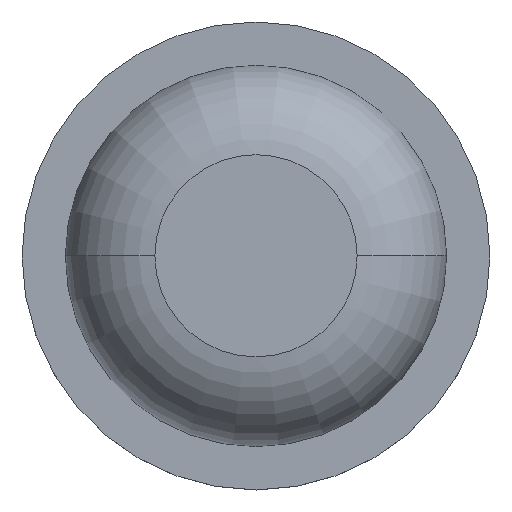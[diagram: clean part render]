
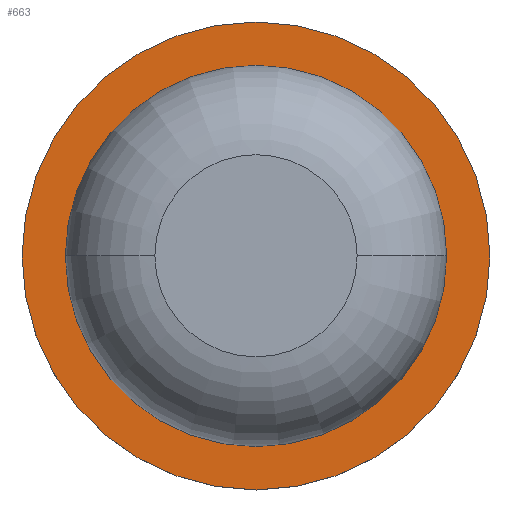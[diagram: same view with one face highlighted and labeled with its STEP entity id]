
A CAD part, top view. The second image highlights one B-rep face of the part: STEP entity #663.
In plain terms, the highlighted planar face has unit normal (0, 0, 1).
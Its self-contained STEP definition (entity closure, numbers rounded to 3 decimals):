
#8 = CIRCLE ( 'NONE', #188, 8.1 ) ;
#18 = AXIS2_PLACEMENT_3D ( 'NONE', #165, #662, #275 ) ;
#20 = AXIS2_PLACEMENT_3D ( 'NONE', #454, #449, #279 ) ;
#24 = VERTEX_POINT ( 'NONE', #646 ) ;
#43 = CIRCLE ( 'NONE', #18, 8.1 ) ;
#52 = AXIS2_PLACEMENT_3D ( 'NONE', #470, #637, #76 ) ;
#72 = CARTESIAN_POINT ( 'NONE',  ( 6.6, 0., 1.6 ) ) ;
#74 = EDGE_CURVE ( 'NONE', #533, #238, #254, .T. ) ;
#76 = DIRECTION ( 'NONE',  ( -1., 0., 0. ) ) ;
#165 = CARTESIAN_POINT ( 'NONE',  ( 0., 0., 1.6 ) ) ;
#188 = AXIS2_PLACEMENT_3D ( 'NONE', #702, #382, #213 ) ;
#209 = EDGE_CURVE ( 'NONE', #465, #24, #8, .T. ) ;
#210 = CARTESIAN_POINT ( 'NONE',  ( -6.6, 0., 1.6 ) ) ;
#213 = DIRECTION ( 'NONE',  ( -1., 0., 0. ) ) ;
#238 = VERTEX_POINT ( 'NONE', #210 ) ;
#241 = ORIENTED_EDGE ( 'NONE', *, *, #419, .F. ) ;
#254 = CIRCLE ( 'NONE', #20, 6.6 ) ;
#263 = FACE_OUTER_BOUND ( 'NONE', #656, .T. ) ;
#275 = DIRECTION ( 'NONE',  ( -1., 0., 0. ) ) ;
#278 = DIRECTION ( 'NONE',  ( 0., 0., 1. ) ) ;
#279 = DIRECTION ( 'NONE',  ( -1., 0., 0. ) ) ;
#314 = EDGE_CURVE ( 'NONE', #24, #465, #43, .T. ) ;
#328 = ORIENTED_EDGE ( 'NONE', *, *, #74, .F. ) ;
#351 = ORIENTED_EDGE ( 'NONE', *, *, #314, .T. ) ;
#366 = FACE_BOUND ( 'NONE', #585, .T. ) ;
#382 = DIRECTION ( 'NONE',  ( 0., 0., 1. ) ) ;
#419 = EDGE_CURVE ( 'NONE', #238, #533, #478, .T. ) ;
#449 = DIRECTION ( 'NONE',  ( 0., 0., 1. ) ) ;
#454 = CARTESIAN_POINT ( 'NONE',  ( 0., 0., 1.6 ) ) ;
#465 = VERTEX_POINT ( 'NONE', #578 ) ;
#470 = CARTESIAN_POINT ( 'NONE',  ( 8.197, -8.197, 1.6 ) ) ;
#478 = CIRCLE ( 'NONE', #581, 6.6 ) ;
#479 = PLANE ( 'NONE',  #52 ) ;
#533 = VERTEX_POINT ( 'NONE', #72 ) ;
#578 = CARTESIAN_POINT ( 'NONE',  ( -8.1, 0., 1.6 ) ) ;
#581 = AXIS2_PLACEMENT_3D ( 'NONE', #612, #278, #671 ) ;
#585 = EDGE_LOOP ( 'NONE', ( #241, #328 ) ) ;
#612 = CARTESIAN_POINT ( 'NONE',  ( 0., 0., 1.6 ) ) ;
#637 = DIRECTION ( 'NONE',  ( 0., 0., -1. ) ) ;
#646 = CARTESIAN_POINT ( 'NONE',  ( 8.1, 0., 1.6 ) ) ;
#656 = EDGE_LOOP ( 'NONE', ( #685, #351 ) ) ;
#662 = DIRECTION ( 'NONE',  ( 0., 0., 1. ) ) ;
#663 = ADVANCED_FACE ( 'NONE', ( #366, #263 ), #479, .F. ) ;
#671 = DIRECTION ( 'NONE',  ( -1., 0., 0. ) ) ;
#685 = ORIENTED_EDGE ( 'NONE', *, *, #209, .T. ) ;
#702 = CARTESIAN_POINT ( 'NONE',  ( 0., 0., 1.6 ) ) ;
